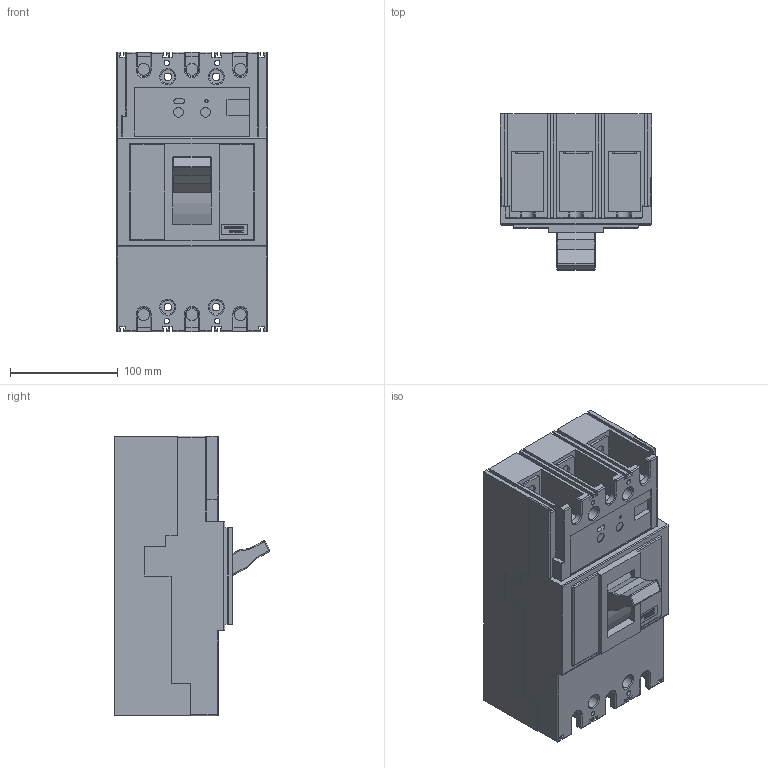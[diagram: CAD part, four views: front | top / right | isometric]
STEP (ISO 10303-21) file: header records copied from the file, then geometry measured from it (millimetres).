
FILE_DESCRIPTION((''),'2;1');
FILE_NAME('S630CE3630','2012-09-20T',('cmahecha'),(''),'PRO/ENGINEER BY PARAMETRIC TECHNOLOGY CORPORATION, 2010280','PRO/ENGINEER BY PARAMETRIC TECHNOLOGY CORPORATION, 2010280','');
FILE_SCHEMA(('CONFIG_CONTROL_DESIGN'));
Length unit declared in the file: millimetre
Products named in the file (1): S630CE3630
Bounding box: 140.4 x 144.93 x 260 mm (x, y, z)
Volume: 3304859 mm3; surface area: 221199.4 mm2
Topology: 1 solids, 1 shells, 1054 faces, 2939 edges, 1930 vertices
Faces by surface type: plane 884, cylinder 142, sphere 14, torus 14
Entity records: 33409 total; most frequent: CARTESIAN_POINT 6113, ORIENTED_EDGE 5878, DIRECTION 5267, EDGE_CURVE 2939, VECTOR 2659, LINE 2659, VERTEX_POINT 1930, AXIS2_PLACEMENT_3D 1304
